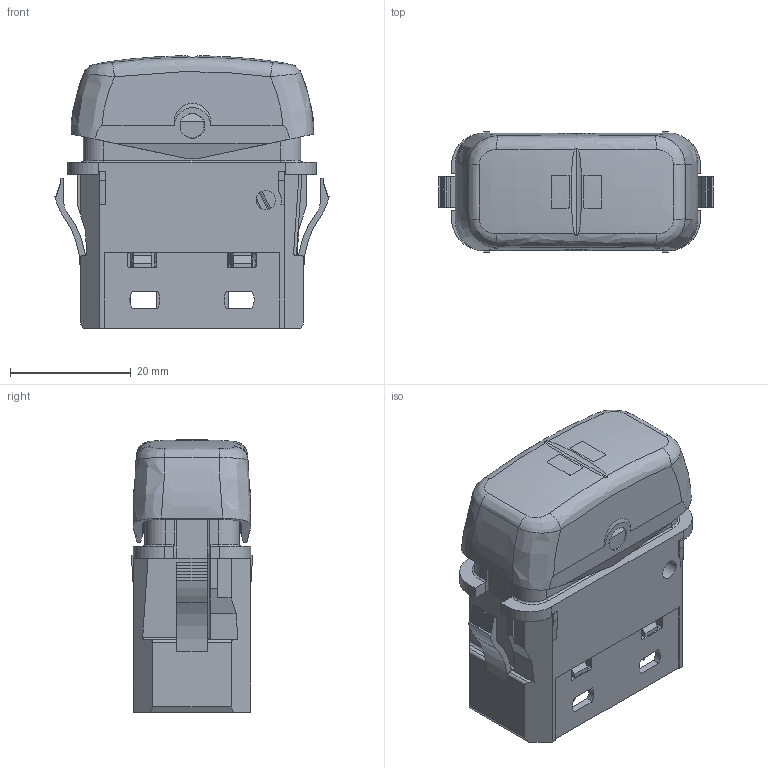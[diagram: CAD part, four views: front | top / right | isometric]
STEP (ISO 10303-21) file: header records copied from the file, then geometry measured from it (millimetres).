
FILE_DESCRIPTION(('CATIA V5 STEP Exchange','CAx-IF Rec.Pracs.--- Model Styling and Organization---1.5--- 2016-08-15','CAx-IF Rec.Pracs.---Supplemental Geometry---1.0---2011-11-01','CAx-IF Rec.Pracs.--- Composite Materials ---1.1---2010-07-15'),'2;1');
FILE_NAME('E:\tmp\ddx\2011226\HELLA_3D_data_Rocker_switches_series 4100_6FH-168-128-00_6FH-168-129-00.stp','2022-01-18T07:34:36+00:00',('none'),('none'),'CATIA Version 5-6 Release 2020 SP3 HF9','CATIA V5 STEP AP214 Edition 3 v2','none');
FILE_SCHEMA(('AUTOMOTIVE_DESIGN { 1 0 10303 214 3 1 1 1 }'));
Products named in the file (1): 10002971839_D10_001
Bounding box: 45.4 x 19.9 x 45.09 mm (x, y, z)
Volume: 12535.8 mm3; surface area: 22664.8 mm2
Topology: 1 solids, 3 shells, 2235 faces, 6747 edges, 4433 vertices
Faces by surface type: plane 1532, cylinder 424, bspline 243, cone 36
Entity records: 83580 total; most frequent: CARTESIAN_POINT 26517, ORIENTED_EDGE 13458, DIRECTION 9323, EDGE_CURVE 6729, VECTOR 4872, LINE 4872, VERTEX_POINT 4433, AXIS2_PLACEMENT_3D 2605
